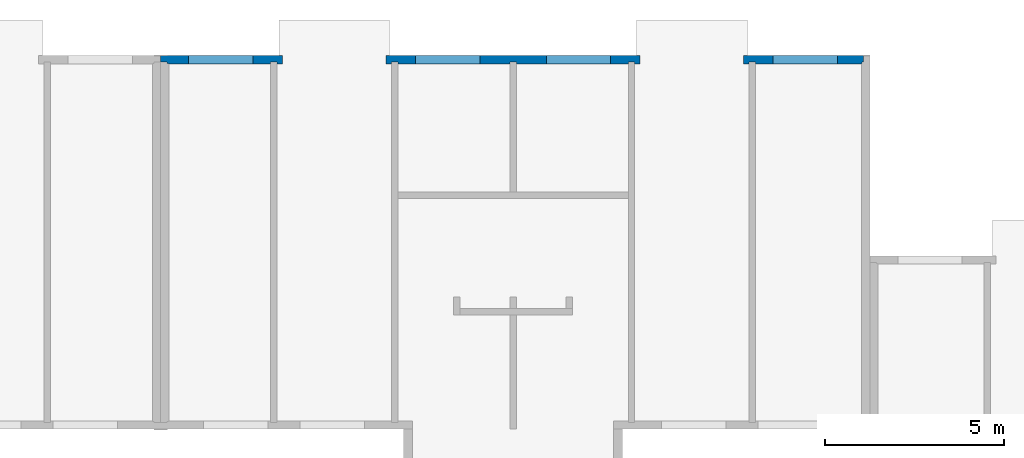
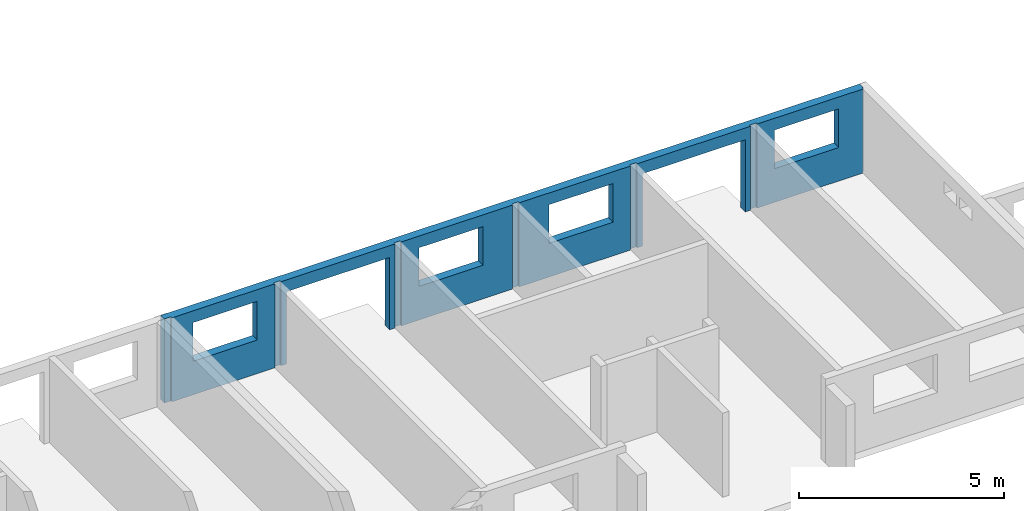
# One storey, part 6 of 9: 1 wall, 6 openings.
"""IFC2X3 building model written with IfcOpenShell, lengths in millimetres."""

from ifc_helpers import new_model, entity, si_unit, converted_unit, frame, frame_2d, origin, origin_with_axes, place, context, subcontext, project, spatial, polyline, rectangle, outline, extrude, material, layer, layer_set, layer_usage, element, save


model = new_model("IFC2X3")

# Units and contexts
model_context = context("Model", 3, precision=1e-05, world=origin())
plan_context = context("Plan", 3, precision=1e-05, world=origin())
body_context = subcontext(model_context, "Body", "Model", "MODEL_VIEW")
ifc_project = project(units=[si_unit("LENGTHUNIT", "METRE", prefix="MILLI"), converted_unit("PLANEANGLEUNIT", "DEGREE", entity("IfcPlaneAngleMeasure", 0.0174532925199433), si_unit("PLANEANGLEUNIT", "RADIAN"), dimensions=[0, 0, 0, 0, 0, 0, 0]), si_unit("AREAUNIT", "SQUARE_METRE"), si_unit("VOLUMEUNIT", "CUBIC_METRE")], contexts=[model_context, plan_context])

# Building, storey
building_placement = place(None, origin())
building = spatial("IfcBuilding", under=ifc_project, at=building_placement, Name="Bâtiment", CompositionType="ELEMENT")
storey_placement = place(building_placement, origin_with_axes())
storey = spatial("IfcBuildingStorey", under=building, at=storey_placement, Name="rdc", CompositionType="ELEMENT", Elevation=0.0)

# Wall, openings
ifc_material_1 = material(Name="moellons")
ifc_layer_1 = layer(ifc_material_1, 179.9999999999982)
ifc_material_2 = material(Name="briquettes")
ifc_layer_2 = layer(ifc_material_2, 40.0)
ifc_material_3 = material(Name="enduit platre")
ifc_layer_3 = layer(ifc_material_3, 10.0)
ifc_layer_set = layer_set([ifc_layer_1, ifc_layer_2, ifc_layer_3])
ifc_layer_usage = layer_usage(ifc_layer_set, "AXIS2", "POSITIVE", 0.0)
wall_placement = place(storey_placement, frame((39519.99999999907, 10470.07776548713, 0.0), z_axis=(0.0, 0.0, 1.0), x_axis=(-1.0, 9.247531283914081e-17, 0.0)))
wall = element("IfcWallStandardCase", 1, at=wall_placement, inside=storey, material=ifc_layer_usage, context=body_context, shape_type="SweptSolid", body=[
    extrude(outline(polyline([(16590.00000000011, 179.9999999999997), (16410.00000000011, 179.9999999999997), (16410.00000000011, 229.9999999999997), (13209.99993823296, 229.9999999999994), (13209.99993823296, 179.9999999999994), (13029.99993823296, 179.9999999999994), (13029.99993823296, 229.9999999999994), (9894.999999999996, 229.9999999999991), (9894.999999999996, 179.9999999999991), (9714.999999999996, 179.9999999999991), (9714.999999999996, 229.9999999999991), (6580.0, 229.9999999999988), (6580.0, 180.0000000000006), (6400.0, 180.0000000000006), (6400.0, 229.9999999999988), (3199.999999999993, 230.0000000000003), (3199.999999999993, 180.0000000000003), (3019.999999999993, 180.0000000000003), (3019.999999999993, 230.0000000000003), (49.99999999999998, 230.0), (49.99999999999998, 220.0), (39.99999999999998, 220.0), (39.99999999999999, 180.0), (-1.664555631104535e-14, 180.0), (0.0, 0.0), (19669.99999999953, 0.0), (19669.99999999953, 180.0), (19489.99999999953, 180.0), (19489.99999999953, 220.0), (19449.99999999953, 220.0), (19449.99999999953, 230.0), (16590.00000000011, 229.9999999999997), (16590.00000000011, 179.9999999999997)])), origin_with_axes(), (0.0, 0.0, 1.0), 2500.0),
])
opening_1_placement = place(wall_placement, frame((17084.99999999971, -1.818989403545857e-12, 1000.0), z_axis=(0.0, 1.0, 0.0), x_axis=(0.0, 0.0, 1.0)))
element("IfcOpeningElement", 2, at=opening_1_placement, cuts=wall, Name="Baie de fenêtre", ObjectType="Opening", context=body_context, shape_type="SweptSolid", body=[
    extrude(rectangle(XDim=1150.0, YDim=1800.0, at=frame_2d((575.0, 900.0), x_axis=(1.0, 0.0))), origin_with_axes(), (0.0, 0.0, 1.0), 230.0),
])
opening_2_placement = place(wall_placement, frame((10735.00000000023, -1.818989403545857e-12, 1000.0), z_axis=(0.0, 1.0, 0.0), x_axis=(0.0, 0.0, 1.0)))
element("IfcOpeningElement", 3, at=opening_2_placement, cuts=wall, Name="Baie de fenêtre", ObjectType="Opening", context=body_context, shape_type="SweptSolid", body=[
    extrude(rectangle(XDim=1150.0, YDim=1800.0, at=frame_2d((575.0, 900.0), x_axis=(1.0, 0.0))), origin_with_axes(), (0.0, 0.0, 1.0), 230.0),
])
opening_3_placement = place(wall_placement, frame((7074.999999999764, 0.0, 1000.0), z_axis=(0.0, 1.0, 0.0), x_axis=(0.0, 0.0, 1.0)))
element("IfcOpeningElement", 4, at=opening_3_placement, cuts=wall, Name="Baie de fenêtre", ObjectType="Opening", context=body_context, shape_type="SweptSolid", body=[
    extrude(rectangle(XDim=1150.0, YDim=1800.0, at=frame_2d((575.0, 900.0), x_axis=(1.0, 0.0))), origin_with_axes(), (0.0, 0.0, 1.0), 230.0),
])
opening_4_placement = place(wall_placement, frame((725.0000000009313, 0.0, 1000.0), z_axis=(0.0, 1.0, 0.0), x_axis=(0.0, 0.0, 1.0)))
element("IfcOpeningElement", 5, at=opening_4_placement, cuts=wall, Name="Baie de fenêtre", ObjectType="Opening", context=body_context, shape_type="SweptSolid", body=[
    extrude(rectangle(XDim=1150.0, YDim=1800.0, at=frame_2d((575.0, 900.0), x_axis=(1.0, 0.0))), origin_with_axes(), (0.0, 0.0, 1.0), 230.0),
])
opening_5_placement = place(wall_placement, frame((13359.96872355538, -1.818989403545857e-12, 0.0), z_axis=(0.0, 1.0, 0.0), x_axis=(0.0, 0.0, 1.0)))
element("IfcOpeningElement", 6, at=opening_5_placement, cuts=wall, Name="Baie de porte", ObjectType="Opening", context=body_context, shape_type="SweptSolid", body=[
    extrude(rectangle(XDim=2150.0, YDim=2900.0, at=frame_2d((1075.0, 1450.0), x_axis=(1.0, 0.0))), origin_with_axes(), (0.0, 0.0, 1.0), 230.0),
])
opening_6_placement = place(wall_placement, frame((3350.370189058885, 0.0, 0.0), z_axis=(0.0, 1.0, 0.0), x_axis=(0.0, 0.0, 1.0)))
element("IfcOpeningElement", 7, at=opening_6_placement, cuts=wall, Name="Baie de porte", ObjectType="Opening", context=body_context, shape_type="SweptSolid", body=[
    extrude(rectangle(XDim=2150.0, YDim=2900.0, at=frame_2d((1075.0, 1450.0), x_axis=(1.0, 0.0))), origin_with_axes(), (0.0, 0.0, 1.0), 230.0),
])

save(model, "model.ifc")
